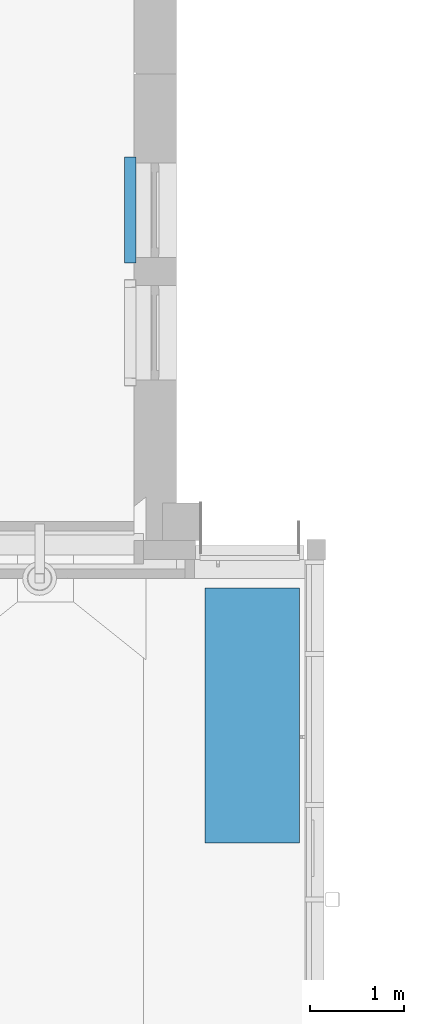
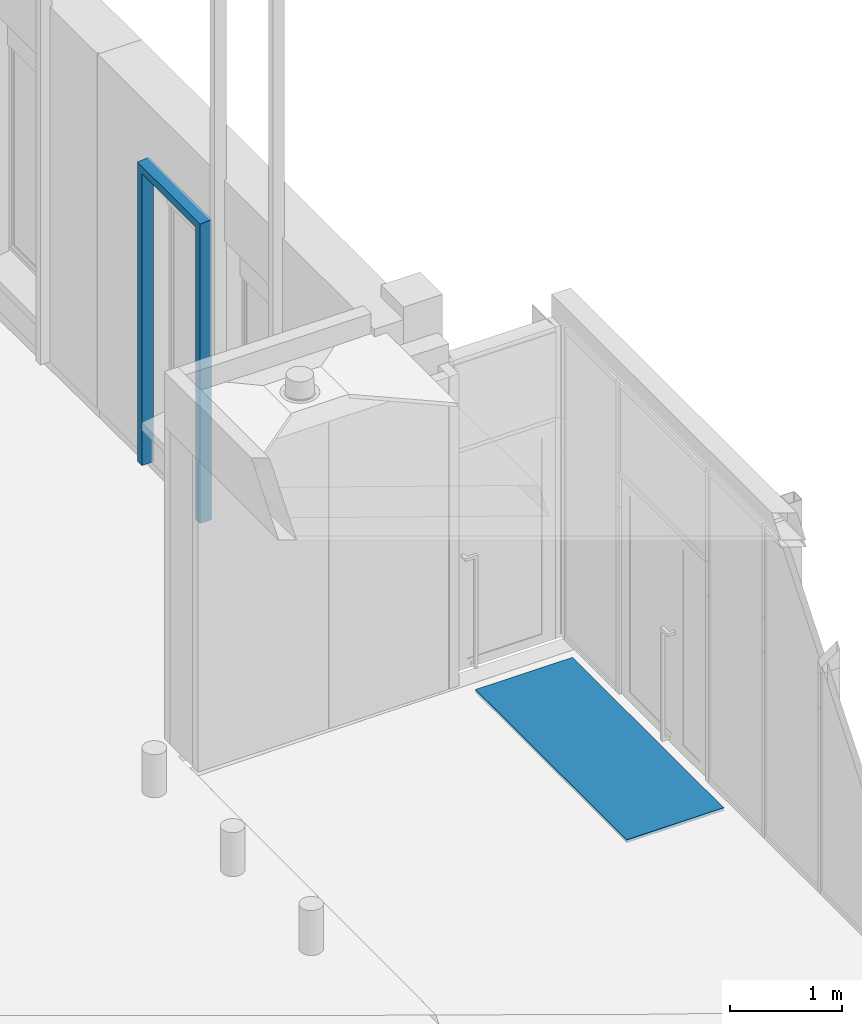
# One storey, part 60 of 77: 2 discrete accessories.
"""IFC2X3 building model written with IfcOpenShell, lengths in millimetres."""

from ifc_helpers import new_model, entity, si_unit, converted_unit, derived_unit, direction, frame, origin, place, context, subcontext, project, spatial, faceted_brep, source, transform, mapped, material, type_object, type_shapes, element, save


model = new_model("IFC2X3")

# Units and contexts
model_context = context("Model", 3, precision=0.01, world=origin(), true_north=direction((6.12303176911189e-17, 1.0)))
body_context = subcontext(model_context, "Body", "Model", "MODEL_VIEW")
ifc_project = project(units=[si_unit("LENGTHUNIT", "METRE", prefix="MILLI"), si_unit("AREAUNIT", "SQUARE_METRE"), si_unit("VOLUMEUNIT", "CUBIC_METRE"), converted_unit("PLANEANGLEUNIT", "DEGREE", entity("IfcRatioMeasure", 0.0174532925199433), si_unit("PLANEANGLEUNIT", "RADIAN"), dimensions=[0, 0, 0, 0, 0, 0, 0]), si_unit("MASSUNIT", "GRAM", prefix="KILO"), derived_unit("MASSDENSITYUNIT", [(si_unit("MASSUNIT", "GRAM", prefix="KILO"), 1), (si_unit("LENGTHUNIT", "METRE"), -3)]), si_unit("TIMEUNIT", "SECOND"), si_unit("FREQUENCYUNIT", "HERTZ"), si_unit("THERMODYNAMICTEMPERATUREUNIT", "DEGREE_CELSIUS"), derived_unit("THERMALTRANSMITTANCEUNIT", [(si_unit("MASSUNIT", "GRAM", prefix="KILO"), 1), (si_unit("THERMODYNAMICTEMPERATUREUNIT", "KELVIN"), -1), (si_unit("TIMEUNIT", "SECOND"), -3)]), derived_unit("VOLUMETRICFLOWRATEUNIT", [(si_unit("LENGTHUNIT", "METRE"), 3), (si_unit("TIMEUNIT", "SECOND"), -1)]), si_unit("ELECTRICCURRENTUNIT", "AMPERE"), si_unit("ELECTRICVOLTAGEUNIT", "VOLT"), si_unit("POWERUNIT", "WATT"), si_unit("FORCEUNIT", "NEWTON", prefix="KILO"), si_unit("ILLUMINANCEUNIT", "LUX"), si_unit("LUMINOUSFLUXUNIT", "LUMEN"), si_unit("LUMINOUSINTENSITYUNIT", "CANDELA"), derived_unit("USERDEFINED", [(si_unit("MASSUNIT", "GRAM", prefix="KILO"), -1), (si_unit("LENGTHUNIT", "METRE"), -2), (si_unit("TIMEUNIT", "SECOND"), 3), (si_unit("LUMINOUSFLUXUNIT", "LUMEN"), 1)]), derived_unit("LINEARVELOCITYUNIT", [(si_unit("LENGTHUNIT", "METRE"), 1), (si_unit("TIMEUNIT", "SECOND"), -1)]), si_unit("PRESSUREUNIT", "PASCAL"), derived_unit("USERDEFINED", [(si_unit("LENGTHUNIT", "METRE"), -2), (si_unit("MASSUNIT", "GRAM", prefix="KILO"), 1), (si_unit("TIMEUNIT", "SECOND"), -2)])], contexts=[model_context])

# Site, building, storey
site_placement = place(None, origin())
site = spatial("IfcSite", under=ifc_project, at=site_placement, Name="Default", CompositionType="ELEMENT")
building_placement = place(site_placement, origin())
building = spatial("IfcBuilding", under=site, at=building_placement, CompositionType="ELEMENT")
storey_placement = place(building_placement, origin())
storey = spatial("IfcBuildingStorey", under=building, at=storey_placement, Name="1. KORRUS", CompositionType="ELEMENT", Elevation=0.0)

# Discrete accessories
ifc_material_1 = material(Name="Default New Material-must-varv")
discrete_accessory_type_1 = type_object("IfcDiscreteAccessoryType", Name="akna-ylaplekid1000", material=ifc_material_1)
shared_shape_1 = source(origin(), body_context, "Body", "Brep", [
    faceted_brep([(80.0, 0.0, 0.0), (0.0, 0.0, 0.0), (0.0, 120.0, 0.0), (4.0, 120.0, 0.0), (4.0, 4.0, 0.0), (76.0, 4.0, 0.0), (76.0, 120.0, 0.0), (80.0, 120.0, 0.0), (80.0, 4.0, 3184.0), (80.0, 120.0, 3184.0), (80.0, 120.0, 3265.9861351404), (80.0, 4.0, 3256.31946847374), (76.0, 120.0, 3265.9861351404), (4.0, 120.0, 3265.9861351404), (0.0, 120.0, 3270.0), (1120.0, 120.0, 3270.0), (1120.0, 120.0, 0.0), (1116.0, 120.0, 0.0), (1116.0, 120.0, 3265.9861351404), (1044.0, 120.0, 3265.9861351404), (1044.0, 120.0, 0.0), (1040.0, 120.0, 0.0), (1040.0, 120.0, 3180.0), (80.0, 120.0, 3180.0), (1040.0, 120.0, 3184.0), (1040.0, 120.0, 3265.9861351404), (76.0, 4.0, 3256.31946847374), (4.0, 4.0, 3256.31946847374), (0.0, 0.0, 3260.0), (80.0, 0.0, 3180.0), (1040.0, 0.0, 3180.0), (1040.0, 0.0, 0.0), (1120.0, 0.0, 0.0), (1120.0, 0.0, 3260.0), (1040.0, 4.0, 3184.0), (1040.0, 4.0, 3256.31946847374), (1044.0, 4.0, 0.0), (1116.0, 4.0, 0.0), (1044.0, 4.0, 3256.31946847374), (1116.0, 4.0, 3256.31946847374)], [[[0, 1, 2, 3, 4, 5, 6, 7]], [[8, 9, 10, 11]], [[7, 6, 12, 13, 3, 2, 14, 15, 16, 17, 18, 19, 20, 21, 22, 23], [24, 25, 10, 9]], [[6, 5, 26, 12]], [[5, 4, 27, 26]], [[4, 3, 13, 27]], [[2, 1, 28, 14]], [[1, 0, 29, 30, 31, 32, 33, 28]], [[15, 14, 28, 33]], [[34, 8, 11, 35]], [[8, 34, 24, 9]], [[30, 29, 23, 22]], [[31, 21, 20, 36, 37, 17, 16, 32]], [[24, 34, 35, 25]], [[36, 20, 19, 38]], [[37, 36, 38, 39]], [[17, 37, 39, 18]], [[32, 16, 15, 33]], [[13, 12, 26, 27]], [[10, 25, 35, 11]], [[19, 18, 39, 38]], [[21, 31, 30, 22]], [[0, 7, 23, 29]]]),
])
type_shapes(discrete_accessory_type_1, [shared_shape_1])
discrete_accessory_1_placement = place(storey_placement, frame((-550.0, 16860.0014599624, 0.0), z_axis=(0.0, 0.0, 1.0), x_axis=(0.0, -1.0, 0.0)))
element("IfcDiscreteAccessory", 1, at=discrete_accessory_1_placement, inside=storey, type_object=discrete_accessory_type_1, material=ifc_material_1, Name="akna-ylaplekid_1k-A:akna-ylaplekid1000", ObjectType="akna-ylaplekid1000", context=body_context, shape_type="MappedRepresentation", body=[
    mapped(shared_shape_1, transform((0.0, 0.0, 0.0), scale=1.0)),
])
ifc_material_2 = material(Name="Keevisrest_jalarest")
discrete_accessory_type_2 = type_object("IfcDiscreteAccessoryType", Name="jalarest-suur", material=ifc_material_2)
shared_shape_2 = source(origin(), body_context, "Body", "Brep", [
    faceted_brep([(25.0, 2675.0, -30.0), (25.0, 2675.0, -33.0), (975.0, 2675.0, -33.0), (975.0, 2675.0, -30.0), (3.0, 2697.0, 0.0), (3.0, 2697.0, -30.0), (997.0, 2697.0, -30.0), (997.0, 2697.0, 0.0), (0.0, 2700.0, -33.0), (0.0, 2700.0, 0.0), (1000.0, 2700.0, 0.0), (1000.0, 2700.0, -33.0), (975.0, 25.0, -33.0), (975.0, 25.0, -30.0), (997.0, 3.0, -30.0), (997.0, 3.0, 0.0), (1000.0, 0.0, 0.0), (1000.0, 0.0, -33.0), (25.0, 25.0, -33.0), (25.0, 25.0, -30.0), (3.0, 3.0, -30.0), (3.0, 3.0, 0.0), (0.0, 0.0, 0.0), (0.0, 0.0, -33.0)], [[[0, 1, 2, 3]], [[4, 5, 6, 7]], [[8, 9, 10, 11]], [[3, 2, 12, 13]], [[7, 6, 14, 15]], [[11, 10, 16, 17]], [[13, 12, 18, 19]], [[15, 14, 20, 21]], [[17, 16, 22, 23]], [[11, 17, 23, 8], [1, 18, 12, 2]], [[19, 18, 1, 0]], [[3, 13, 19, 0], [5, 20, 14, 6]], [[21, 20, 5, 4]], [[7, 15, 21, 4], [9, 22, 16, 10]], [[23, 22, 9, 8]]], outer=[[True], [True], [True], [True], [True], [True], [True], [True], [True], [True, False], [True], [False, True], [True], [False, True], [True]]),
    faceted_brep([(0.0, 2697.0, 0.0), (0.0, 0.0, 0.0), (997.0, 0.0, 0.0), (997.0, 2697.0, 0.0), (0.0, 2697.0, -30.0), (997.0, 2697.0, -30.0), (997.0, 0.0, -30.0), (0.0, 0.0, -30.0)], [[[0, 1, 2, 3]], [[4, 5, 6, 7]], [[1, 0, 4, 7]], [[2, 1, 7, 6]], [[3, 2, 6, 5]], [[0, 3, 5, 4]]]),
])
type_shapes(discrete_accessory_type_2, [shared_shape_2])
discrete_accessory_2_placement = place(storey_placement, frame((300.647951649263, 9600.0, -18.9238386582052)))
element("IfcDiscreteAccessory", 2, at=discrete_accessory_2_placement, inside=storey, type_object=discrete_accessory_type_2, material=ifc_material_2, Name="jalarest-suur:jalarest-suur", ObjectType="jalarest-suur", context=body_context, shape_type="MappedRepresentation", body=[
    mapped(shared_shape_2, transform((0.0, 0.0, 0.0), scale=1.0)),
])

save(model, "model.ifc")
